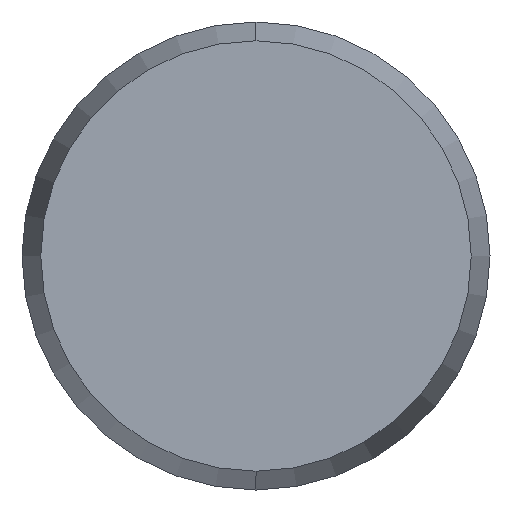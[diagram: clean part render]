
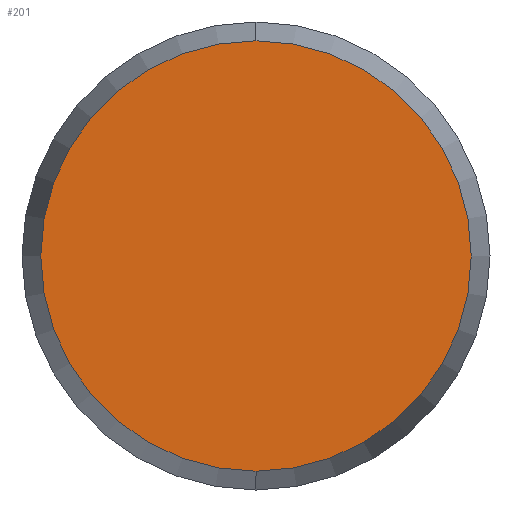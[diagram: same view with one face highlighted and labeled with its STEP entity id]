
A CAD part, left-side view. The second image highlights one B-rep face of the part: STEP entity #201.
In plain terms, the highlighted planar face has unit normal (-1, 0, 0).
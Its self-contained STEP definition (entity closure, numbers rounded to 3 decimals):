
#40 = CARTESIAN_POINT ( 'NONE',  ( -6., 0., 3.678 ) ) ;
#41 = CARTESIAN_POINT ( 'NONE',  ( -6., 0., -3.678 ) ) ;
#86 = CARTESIAN_POINT ( 'NONE',  ( -6., 0., 0. ) ) ;
#87 = DIRECTION ( 'NONE',  ( 0., 0., -1. ) ) ;
#88 = CIRCLE ( 'NONE', #89, 3.678 ) ;
#89 = AXIS2_PLACEMENT_3D ( 'NONE', #86, #90, #87 ) ;
#90 = DIRECTION ( 'NONE',  ( 1., 0., 0. ) ) ;
#163 = VERTEX_POINT ( 'NONE', #41 ) ;
#165 = VERTEX_POINT ( 'NONE', #40 ) ;
#174 = EDGE_CURVE ( 'NONE', #165, #163, #88, .T. ) ;
#193 = ORIENTED_EDGE ( 'NONE', *, *, #174, .F. ) ;
#194 = ORIENTED_EDGE ( 'NONE', *, *, #202, .F. ) ;
#201 = ADVANCED_FACE ( 'NONE', ( #250 ), #239, .F. ) ;
#202 = EDGE_CURVE ( 'NONE', #163, #165, #241, .T. ) ;
#203 = EDGE_LOOP ( 'NONE', ( #193, #194 ) ) ;
#233 = AXIS2_PLACEMENT_3D ( 'NONE', #234, #236, #235 ) ;
#234 = CARTESIAN_POINT ( 'NONE',  ( -6., 0., 0. ) ) ;
#235 = DIRECTION ( 'NONE',  ( 0., 0., -1. ) ) ;
#236 = DIRECTION ( 'NONE',  ( 1., 0., 0. ) ) ;
#238 = DIRECTION ( 'NONE',  ( 1., 0., 0. ) ) ;
#239 = PLANE ( 'NONE',  #233 ) ;
#240 = AXIS2_PLACEMENT_3D ( 'NONE', #242, #238, #249 ) ;
#241 = CIRCLE ( 'NONE', #240, 3.678 ) ;
#242 = CARTESIAN_POINT ( 'NONE',  ( -6., 0., 0. ) ) ;
#249 = DIRECTION ( 'NONE',  ( 0., 0., -1. ) ) ;
#250 = FACE_OUTER_BOUND ( 'NONE', #203, .T. ) ;
